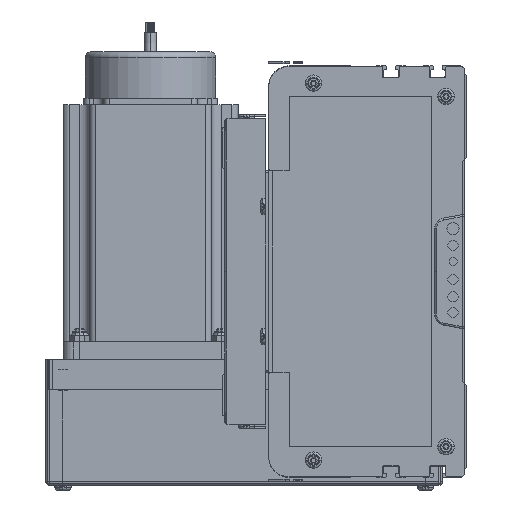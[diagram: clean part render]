
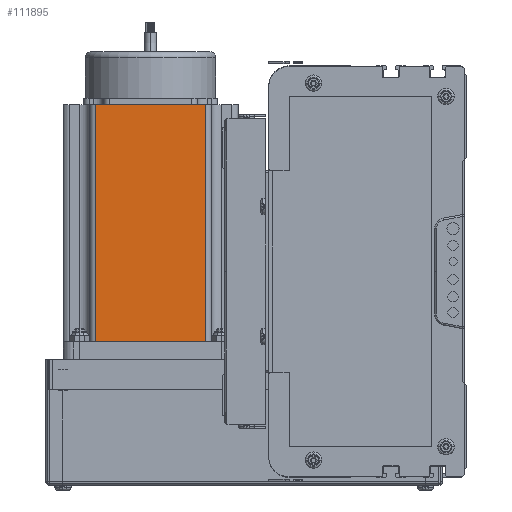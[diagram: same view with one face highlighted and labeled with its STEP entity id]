
A CAD part, left-side view. The second image highlights one B-rep face of the part: STEP entity #111895.
In plain terms, the highlighted planar face has unit normal (-1, 0, 0) as drawn and (0, -1, 0) by its records, which use the part's own axes.
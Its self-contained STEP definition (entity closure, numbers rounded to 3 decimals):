
#652 = DIRECTION ( 'NONE',  ( 1., 0., 0. ) ) ;
#654 = CARTESIAN_POINT ( 'NONE',  ( 0., 0., 0. ) ) ;
#792 = VECTOR ( 'NONE', #652, 1000. ) ;
#1845 = LINE ( 'NONE', #654, #792 ) ;
#2332 = DIRECTION ( 'NONE',  ( 1., 0., 0. ) ) ;
#2334 = VECTOR ( 'NONE', #2332, 1000. ) ;
#2335 = CARTESIAN_POINT ( 'NONE',  ( 0., 0., 116.5 ) ) ;
#2338 = LINE ( 'NONE', #2335, #2334 ) ;
#2435 = CARTESIAN_POINT ( 'NONE',  ( 69.74, 0., 116.5 ) ) ;
#4083 = CARTESIAN_POINT ( 'NONE',  ( 16.16, 0., 0. ) ) ;
#4261 = DIRECTION ( 'NONE',  ( 0., 0., 1. ) ) ;
#4264 = DIRECTION ( 'NONE',  ( 0., 1., 0. ) ) ;
#4295 = FACE_OUTER_BOUND ( 'NONE', #110950, .T. ) ;
#4305 = PLANE ( 'NONE',  #4337 ) ;
#4316 = CARTESIAN_POINT ( 'NONE',  ( 0., 0., 116.5 ) ) ;
#4337 = AXIS2_PLACEMENT_3D ( 'NONE', #4316, #4264, #4261 ) ;
#4400 = CARTESIAN_POINT ( 'NONE',  ( 16.16, 0., 116.5 ) ) ;
#4645 = DIRECTION ( 'NONE',  ( 0., 0., 1. ) ) ;
#4802 = VECTOR ( 'NONE', #4645, 1000. ) ;
#4807 = CARTESIAN_POINT ( 'NONE',  ( 69.74, 0., 116.5 ) ) ;
#4809 = LINE ( 'NONE', #4807, #4802 ) ;
#5900 = VECTOR ( 'NONE', #5996, 1000. ) ;
#5902 = CARTESIAN_POINT ( 'NONE',  ( 16.16, 0., 116.5 ) ) ;
#5904 = LINE ( 'NONE', #5902, #5900 ) ;
#5996 = DIRECTION ( 'NONE',  ( 0., 0., -1. ) ) ;
#6127 = CARTESIAN_POINT ( 'NONE',  ( 69.74, 0., 0. ) ) ;
#110840 = EDGE_CURVE ( 'NONE', #111560, #113061, #1845, .T. ) ;
#110865 = EDGE_CURVE ( 'NONE', #111976, #110874, #2338, .T. ) ;
#110874 = VERTEX_POINT ( 'NONE', #2435 ) ;
#110950 = EDGE_LOOP ( 'NONE', ( #111841, #112733, #112969, #111216 ) ) ;
#111216 = ORIENTED_EDGE ( 'NONE', *, *, #112975, .T. ) ;
#111560 = VERTEX_POINT ( 'NONE', #4083 ) ;
#111841 = ORIENTED_EDGE ( 'NONE', *, *, #110840, .T. ) ;
#111895 = ADVANCED_FACE ( 'NONE', ( #4295 ), #4305, .F. ) ;
#111976 = VERTEX_POINT ( 'NONE', #4400 ) ;
#112727 = EDGE_CURVE ( 'NONE', #113061, #110874, #4809, .T. ) ;
#112733 = ORIENTED_EDGE ( 'NONE', *, *, #112727, .T. ) ;
#112969 = ORIENTED_EDGE ( 'NONE', *, *, #110865, .F. ) ;
#112975 = EDGE_CURVE ( 'NONE', #111976, #111560, #5904, .T. ) ;
#113061 = VERTEX_POINT ( 'NONE', #6127 ) ;
